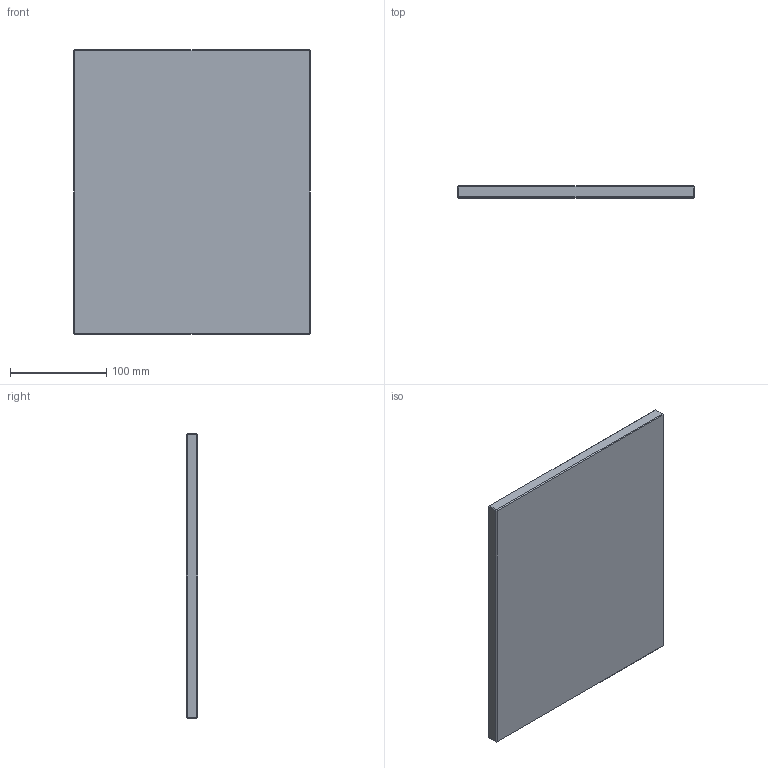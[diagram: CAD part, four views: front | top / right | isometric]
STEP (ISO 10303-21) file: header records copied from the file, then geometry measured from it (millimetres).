
FILE_DESCRIPTION (( 'STEP AP214' ), '1' );
FILE_NAME ('CPE-P-246x296x12.STEP', '2020-04-07T09:05:19', ( 'August' ), ( '' ), 'SwSTEP 2.0', 'SolidWorks 2018', '' );
FILE_SCHEMA (( 'AUTOMOTIVE_DESIGN' ));
Length unit declared in the file: millimetre
Products named in the file (1): CPE-P-246x296x12
Bounding box: 246 x 12 x 296 mm (x, y, z)
Volume: 872689.3 mm3; surface area: 157338.9 mm2
Topology: 1 solids, 1 shells, 26 faces, 48 edges, 24 vertices
Faces by surface type: plane 26
Entity records: 634 total; most frequent: DIRECTION 102, CARTESIAN_POINT 99, ORIENTED_EDGE 96, LINE 48, VECTOR 48, EDGE_CURVE 48, AXIS2_PLACEMENT_3D 27, ADVANCED_FACE 26
